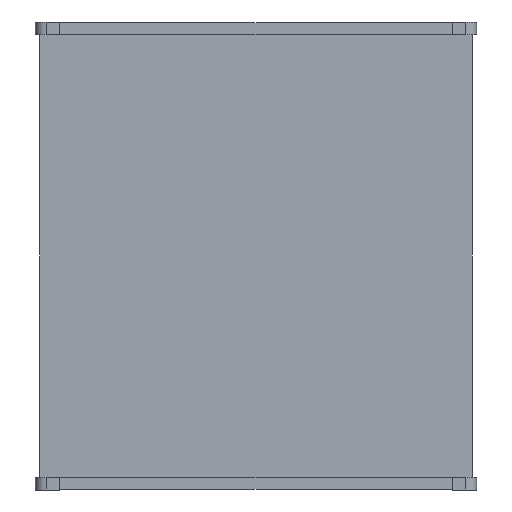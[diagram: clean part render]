
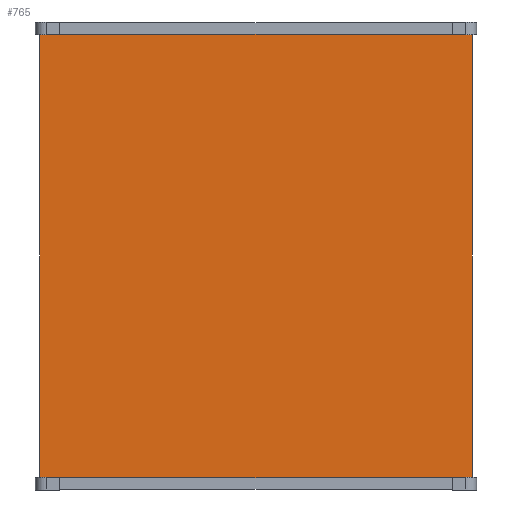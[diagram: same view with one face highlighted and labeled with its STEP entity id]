
A CAD part, front view. The second image highlights one B-rep face of the part: STEP entity #765.
In plain terms, the highlighted planar face has unit normal (0, -1, 0).
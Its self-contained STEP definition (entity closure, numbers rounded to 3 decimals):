
#765=ADVANCED_FACE('',(#1564),#1565,.F.);
#1564=FACE_OUTER_BOUND('',#2383,.T.);
#1565=PLANE('',#2384);
#2383=EDGE_LOOP('',(#4846,#4847,#4848,#4849,#4850,#4851,#4852,#4853,#4854,#4855,#4856,#4857,#4858,#4859,#4860,#4861,#4862,#4863,#4864,#4865,#4866,#4867,#4868,#4869,#4870,#4871,#4872,#4873));
#2384=AXIS2_PLACEMENT_3D('',#4874,#4875,#4876);
#4846=ORIENTED_EDGE('',*,*,#5827,.T.);
#4847=ORIENTED_EDGE('',*,*,#5861,.T.);
#4848=ORIENTED_EDGE('',*,*,#5997,.T.);
#4849=ORIENTED_EDGE('',*,*,#5182,.T.);
#4850=ORIENTED_EDGE('',*,*,#6131,.T.);
#4851=ORIENTED_EDGE('',*,*,#5988,.T.);
#4852=ORIENTED_EDGE('',*,*,#5996,.T.);
#4853=ORIENTED_EDGE('',*,*,#6018,.T.);
#4854=ORIENTED_EDGE('',*,*,#6031,.T.);
#4855=ORIENTED_EDGE('',*,*,#6093,.T.);
#4856=ORIENTED_EDGE('',*,*,#6117,.T.);
#4857=ORIENTED_EDGE('',*,*,#6109,.T.);
#4858=ORIENTED_EDGE('',*,*,#6129,.T.);
#4859=ORIENTED_EDGE('',*,*,#5156,.T.);
#4860=ORIENTED_EDGE('',*,*,#6120,.T.);
#4861=ORIENTED_EDGE('',*,*,#5908,.F.);
#4862=ORIENTED_EDGE('',*,*,#5940,.T.);
#4863=ORIENTED_EDGE('',*,*,#5201,.T.);
#4864=ORIENTED_EDGE('',*,*,#6132,.T.);
#4865=ORIENTED_EDGE('',*,*,#5935,.T.);
#4866=ORIENTED_EDGE('',*,*,#5939,.T.);
#4867=ORIENTED_EDGE('',*,*,#5927,.T.);
#4868=ORIENTED_EDGE('',*,*,#6133,.T.);
#4869=ORIENTED_EDGE('',*,*,#5810,.T.);
#4870=ORIENTED_EDGE('',*,*,#5828,.T.);
#4871=ORIENTED_EDGE('',*,*,#5807,.T.);
#4872=ORIENTED_EDGE('',*,*,#6134,.T.);
#4873=ORIENTED_EDGE('',*,*,#5218,.T.);
#4874=CARTESIAN_POINT('',(0.,-206.96,-392.5));
#4875=DIRECTION('',(0.,1.0,0.0));
#4876=DIRECTION('',(0.,0.,1.0));
#5156=EDGE_CURVE('',#6244,#6242,#6245,.T.);
#5182=EDGE_CURVE('',#6292,#6290,#6293,.T.);
#5201=EDGE_CURVE('',#6327,#6325,#6328,.T.);
#5218=EDGE_CURVE('',#6358,#6356,#6359,.T.);
#5807=EDGE_CURVE('',#7256,#7254,#7257,.T.);
#5810=EDGE_CURVE('',#7260,#7261,#7262,.T.);
#5827=EDGE_CURVE('',#6356,#7288,#7291,.T.);
#5828=EDGE_CURVE('',#7261,#7256,#7292,.T.);
#5861=EDGE_CURVE('',#7288,#7340,#7342,.T.);
#5908=EDGE_CURVE('',#7407,#7409,#7410,.T.);
#5927=EDGE_CURVE('',#7439,#7437,#7440,.T.);
#5935=EDGE_CURVE('',#7453,#7451,#7454,.T.);
#5939=EDGE_CURVE('',#7451,#7439,#7458,.T.);
#5940=EDGE_CURVE('',#7407,#6327,#7459,.T.);
#5988=EDGE_CURVE('',#7520,#7518,#7521,.T.);
#5996=EDGE_CURVE('',#7518,#7530,#7531,.T.);
#5997=EDGE_CURVE('',#7340,#6292,#7532,.T.);
#6018=EDGE_CURVE('',#7530,#7562,#7563,.T.);
#6031=EDGE_CURVE('',#7562,#7580,#7582,.T.);
#6093=EDGE_CURVE('',#7580,#7667,#7668,.T.);
#6109=EDGE_CURVE('',#7691,#7689,#7692,.T.);
#6117=EDGE_CURVE('',#7667,#7691,#7704,.T.);
#6120=EDGE_CURVE('',#6242,#7409,#7707,.T.);
#6129=EDGE_CURVE('',#7689,#6244,#7716,.T.);
#6131=EDGE_CURVE('',#6290,#7520,#7718,.T.);
#6132=EDGE_CURVE('',#6325,#7453,#7719,.T.);
#6133=EDGE_CURVE('',#7437,#7260,#7720,.T.);
#6134=EDGE_CURVE('',#7254,#6358,#7721,.T.);
#6242=VERTEX_POINT('',#7853);
#6244=VERTEX_POINT('',#7855);
#6245=LINE('',#7856,#7857);
#6290=VERTEX_POINT('',#7912);
#6292=VERTEX_POINT('',#7914);
#6293=LINE('',#7915,#7916);
#6325=VERTEX_POINT('',#7955);
#6327=VERTEX_POINT('',#7957);
#6328=LINE('',#7958,#7959);
#6356=VERTEX_POINT('',#7993);
#6358=VERTEX_POINT('',#7995);
#6359=LINE('',#7996,#7997);
#7254=VERTEX_POINT('',#9091);
#7256=VERTEX_POINT('',#9093);
#7257=LINE('',#9094,#9095);
#7260=VERTEX_POINT('',#9098);
#7261=VERTEX_POINT('',#9099);
#7262=LINE('',#9100,#9101);
#7288=VERTEX_POINT('',#9139);
#7291=LINE('',#9143,#9144);
#7292=LINE('',#9145,#9146);
#7340=VERTEX_POINT('',#9215);
#7342=LINE('',#9218,#9219);
#7407=VERTEX_POINT('',#9312);
#7409=VERTEX_POINT('',#9315);
#7410=LINE('',#9316,#9317);
#7437=VERTEX_POINT('',#9357);
#7439=VERTEX_POINT('',#9360);
#7440=LINE('',#9361,#9362);
#7451=VERTEX_POINT('',#9378);
#7453=VERTEX_POINT('',#9380);
#7454=LINE('',#9381,#9382);
#7458=LINE('',#9386,#9387);
#7459=LINE('',#9388,#9389);
#7518=VERTEX_POINT('',#9469);
#7520=VERTEX_POINT('',#9471);
#7521=LINE('',#9472,#9473);
#7530=VERTEX_POINT('',#9484);
#7531=LINE('',#9485,#9486);
#7532=LINE('',#9487,#9488);
#7562=VERTEX_POINT('',#9530);
#7563=LINE('',#9531,#9532);
#7580=VERTEX_POINT('',#9557);
#7582=LINE('',#9560,#9561);
#7667=VERTEX_POINT('',#9683);
#7668=LINE('',#9684,#9685);
#7689=VERTEX_POINT('',#9715);
#7691=VERTEX_POINT('',#9717);
#7692=LINE('',#9718,#9719);
#7704=LINE('',#9733,#9734);
#7707=LINE('',#9739,#9740);
#7716=LINE('',#9751,#9752);
#7718=LINE('',#9754,#9755);
#7719=LINE('',#9756,#9757);
#7720=LINE('',#9758,#9759);
#7721=LINE('',#9760,#9761);
#7853=CARTESIAN_POINT('',(-363.318,-206.96,-20.625));
#7855=CARTESIAN_POINT('',(-363.318,-206.96,-19.725));
#7856=CARTESIAN_POINT('',(-363.318,-206.96,-20.125));
#7857=VECTOR('',#9908,1.0);
#7912=CARTESIAN_POINT('',(363.318,-206.96,-19.725));
#7914=CARTESIAN_POINT('',(363.318,-206.96,-20.625));
#7915=CARTESIAN_POINT('',(363.318,-206.96,-20.125));
#7916=VECTOR('',#9952,1.0);
#7955=CARTESIAN_POINT('',(-363.318,-206.96,-765.275));
#7957=CARTESIAN_POINT('',(-363.318,-206.96,-764.375));
#7958=CARTESIAN_POINT('',(-363.318,-206.96,-764.875));
#7959=VECTOR('',#9984,1.0);
#7993=CARTESIAN_POINT('',(363.318,-206.96,-764.375));
#7995=CARTESIAN_POINT('',(363.318,-206.96,-765.275));
#7996=CARTESIAN_POINT('',(363.318,-206.96,-764.875));
#7997=VECTOR('',#10012,1.0);
#9091=CARTESIAN_POINT('',(356.682,-206.96,-765.275));
#9093=CARTESIAN_POINT('',(356.682,-206.96,-764.375));
#9094=CARTESIAN_POINT('',(356.682,-206.96,-764.875));
#9095=VECTOR('',#10956,1.0);
#9098=CARTESIAN_POINT('',(330.0,-206.96,-765.375));
#9099=CARTESIAN_POINT('',(330.0,-206.96,-764.375));
#9100=CARTESIAN_POINT('',(330.0,-206.96,-583.844));
#9101=VECTOR('',#10960,1.0);
#9139=CARTESIAN_POINT('',(364.0,-206.96,-764.375));
#9143=CARTESIAN_POINT('',(175.25,-206.96,-764.375));
#9144=VECTOR('',#10977,1.0);
#9145=CARTESIAN_POINT('',(175.25,-206.96,-764.375));
#9146=VECTOR('',#10978,1.0);
#9215=CARTESIAN_POINT('',(364.0,-206.96,-20.625));
#9218=CARTESIAN_POINT('',(364.0,-206.96,-392.5));
#9219=VECTOR('',#11010,1.0);
#9312=CARTESIAN_POINT('',(-364.0,-206.96,-764.375));
#9315=CARTESIAN_POINT('',(-364.0,-206.96,-20.625));
#9316=CARTESIAN_POINT('',(-364.0,-206.96,-392.5));
#9317=VECTOR('',#11055,1.0);
#9357=CARTESIAN_POINT('',(-330.0,-206.96,-765.375));
#9360=CARTESIAN_POINT('',(-330.0,-206.96,-764.375));
#9361=CARTESIAN_POINT('',(-330.0,-206.96,-583.844));
#9362=VECTOR('',#11070,1.0);
#9378=CARTESIAN_POINT('',(-356.682,-206.96,-764.375));
#9380=CARTESIAN_POINT('',(-356.682,-206.96,-765.275));
#9381=CARTESIAN_POINT('',(-356.682,-206.96,-764.875));
#9382=VECTOR('',#11079,1.0);
#9386=CARTESIAN_POINT('',(-175.25,-206.96,-764.375));
#9387=VECTOR('',#11086,1.0);
#9388=CARTESIAN_POINT('',(-175.25,-206.96,-764.375));
#9389=VECTOR('',#11087,1.0);
#9469=CARTESIAN_POINT('',(356.682,-206.96,-20.625));
#9471=CARTESIAN_POINT('',(356.682,-206.96,-19.725));
#9472=CARTESIAN_POINT('',(356.682,-206.96,-20.125));
#9473=VECTOR('',#11139,1.0);
#9484=CARTESIAN_POINT('',(330.0,-206.96,-20.625));
#9485=CARTESIAN_POINT('',(175.25,-206.96,-20.625));
#9486=VECTOR('',#11151,1.0);
#9487=CARTESIAN_POINT('',(175.25,-206.96,-20.625));
#9488=VECTOR('',#11152,1.0);
#9530=CARTESIAN_POINT('',(330.0,-206.96,-19.625));
#9531=CARTESIAN_POINT('',(330.0,-206.96,-201.156));
#9532=VECTOR('',#11174,1.0);
#9557=CARTESIAN_POINT('',(-330.0,-206.96,-19.625));
#9560=CARTESIAN_POINT('',(0.,-206.96,-19.625));
#9561=VECTOR('',#11184,1.0);
#9683=CARTESIAN_POINT('',(-330.0,-206.96,-20.625));
#9684=CARTESIAN_POINT('',(-330.0,-206.96,-201.156));
#9685=VECTOR('',#11240,1.0);
#9715=CARTESIAN_POINT('',(-356.682,-206.96,-19.725));
#9717=CARTESIAN_POINT('',(-356.682,-206.96,-20.625));
#9718=CARTESIAN_POINT('',(-356.682,-206.96,-20.125));
#9719=VECTOR('',#11259,1.0);
#9733=CARTESIAN_POINT('',(-175.25,-206.96,-20.625));
#9734=VECTOR('',#11271,1.0);
#9739=CARTESIAN_POINT('',(-175.25,-206.96,-20.625));
#9740=VECTOR('',#11274,1.0);
#9751=CARTESIAN_POINT('',(-175.05,-206.96,-19.725));
#9752=VECTOR('',#11280,1.0);
#9754=CARTESIAN_POINT('',(175.05,-206.96,-19.725));
#9755=VECTOR('',#11281,1.0);
#9756=CARTESIAN_POINT('',(-175.05,-206.96,-765.275));
#9757=VECTOR('',#11282,1.0);
#9758=CARTESIAN_POINT('',(0.,-206.96,-765.375));
#9759=VECTOR('',#11283,1.0);
#9760=CARTESIAN_POINT('',(175.05,-206.96,-765.275));
#9761=VECTOR('',#11284,1.0);
#9908=DIRECTION('',(0.,0.,-1.0));
#9952=DIRECTION('',(0.,0.,1.0));
#9984=DIRECTION('',(0.,0.,-1.0));
#10012=DIRECTION('',(0.,0.,1.0));
#10956=DIRECTION('',(0.,0.,-1.0));
#10960=DIRECTION('',(0.0,0.0,1.0));
#10977=DIRECTION('',(1.0,0.,0.0));
#10978=DIRECTION('',(1.0,0.,0.0));
#11010=DIRECTION('',(0.,0.,1.0));
#11055=DIRECTION('',(0.,0.,1.0));
#11070=DIRECTION('',(0.,0.,-1.0));
#11079=DIRECTION('',(0.,0.,1.0));
#11086=DIRECTION('',(1.0,0.,0.));
#11087=DIRECTION('',(1.0,0.,0.));
#11139=DIRECTION('',(0.,0.,-1.0));
#11151=DIRECTION('',(-1.0,0.,0.0));
#11152=DIRECTION('',(-1.0,0.,0.0));
#11174=DIRECTION('',(0.0,0.0,1.0));
#11184=DIRECTION('',(-1.0,0.,0.));
#11240=DIRECTION('',(0.,0.,-1.0));
#11259=DIRECTION('',(0.,0.,1.0));
#11271=DIRECTION('',(-1.0,0.,0.));
#11274=DIRECTION('',(-1.0,0.,0.));
#11280=DIRECTION('',(-1.0,0.,0.));
#11281=DIRECTION('',(-1.0,0.,0.0));
#11282=DIRECTION('',(1.0,0.,0.));
#11283=DIRECTION('',(1.0,0.,0.));
#11284=DIRECTION('',(1.0,0.,0.0));
